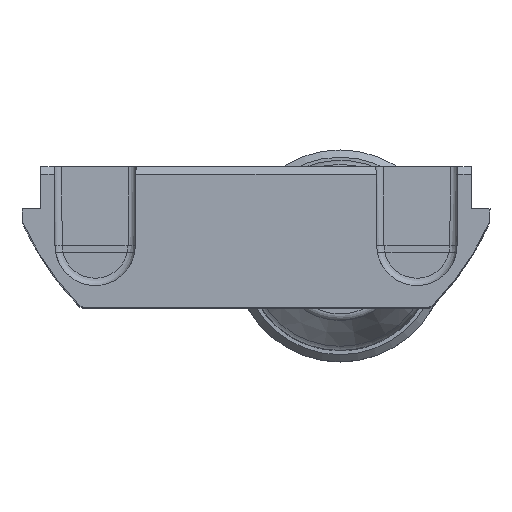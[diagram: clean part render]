
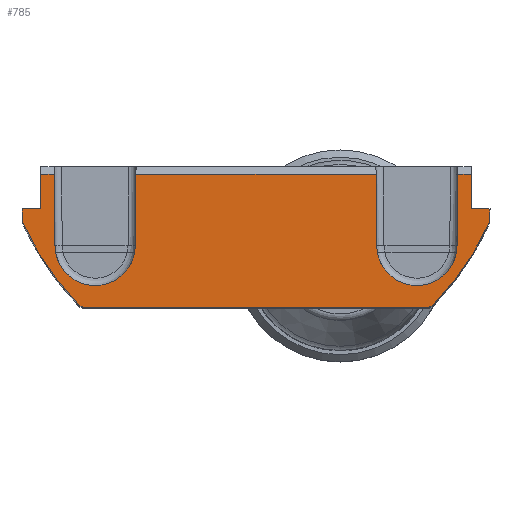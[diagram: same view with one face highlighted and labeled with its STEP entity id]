
A CAD part, top view. The second image highlights one B-rep face of the part: STEP entity #785.
In plain terms, the highlighted planar face has unit normal (0, 0, 1).
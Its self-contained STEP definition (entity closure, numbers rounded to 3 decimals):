
#785=ADVANCED_FACE('',(#1449),#1153,.T.);
#1153=PLANE('',#7957);
#1449=FACE_OUTER_BOUND('',#1852,.T.);
#1852=EDGE_LOOP('',(#3552,#3553,#3554,#3555,#3556,#3557,#3558,#3559,#3560,
#3561,#3562,#3563,#3564,#3565,#3566,#3567,#3568,#3569,#3570,#3571,#3572,
#3573));
#2208=CIRCLE('',#7746,0.5);
#2209=CIRCLE('',#7750,0.5);
#2210=CIRCLE('',#7754,0.5);
#2211=CIRCLE('',#7756,0.5);
#2212=CIRCLE('',#7778,2.75);
#2213=CIRCLE('',#7781,2.75);
#2258=CIRCLE('',#7950,20.);
#2259=CIRCLE('',#7954,20.);
#3552=ORIENTED_EDGE('',*,*,#5959,.F.);
#3553=ORIENTED_EDGE('',*,*,#5551,.T.);
#3554=ORIENTED_EDGE('',*,*,#5675,.F.);
#3555=ORIENTED_EDGE('',*,*,#5681,.F.);
#3556=ORIENTED_EDGE('',*,*,#5679,.F.);
#3557=ORIENTED_EDGE('',*,*,#5547,.T.);
#3558=ORIENTED_EDGE('',*,*,#5689,.T.);
#3559=ORIENTED_EDGE('',*,*,#5686,.T.);
#3560=ORIENTED_EDGE('',*,*,#5683,.T.);
#3561=ORIENTED_EDGE('',*,*,#5543,.T.);
#3562=ORIENTED_EDGE('',*,*,#5960,.F.);
#3563=ORIENTED_EDGE('',*,*,#5961,.F.);
#3564=ORIENTED_EDGE('',*,*,#5668,.F.);
#3565=ORIENTED_EDGE('',*,*,#5613,.T.);
#3566=ORIENTED_EDGE('',*,*,#5953,.T.);
#3567=ORIENTED_EDGE('',*,*,#5620,.T.);
#3568=ORIENTED_EDGE('',*,*,#5958,.F.);
#3569=ORIENTED_EDGE('',*,*,#5626,.T.);
#3570=ORIENTED_EDGE('',*,*,#5956,.T.);
#3571=ORIENTED_EDGE('',*,*,#5627,.T.);
#3572=ORIENTED_EDGE('',*,*,#5670,.F.);
#3573=ORIENTED_EDGE('',*,*,#5962,.F.);
#4798=VERTEX_POINT('',#11055);
#4800=VERTEX_POINT('',#11059);
#4802=VERTEX_POINT('',#11064);
#4804=VERTEX_POINT('',#11068);
#4806=VERTEX_POINT('',#11073);
#4808=VERTEX_POINT('',#11077);
#4849=VERTEX_POINT('',#11505);
#4850=VERTEX_POINT('',#11507);
#4853=VERTEX_POINT('',#11517);
#4854=VERTEX_POINT('',#11519);
#4857=VERTEX_POINT('',#11529);
#4858=VERTEX_POINT('',#11531);
#4859=VERTEX_POINT('',#11535);
#4860=VERTEX_POINT('',#11536);
#4896=VERTEX_POINT('',#11776);
#4897=VERTEX_POINT('',#11780);
#4899=VERTEX_POINT('',#11789);
#4900=VERTEX_POINT('',#11795);
#4901=VERTEX_POINT('',#11802);
#4902=VERTEX_POINT('',#11806);
#5056=VERTEX_POINT('',#12414);
#5057=VERTEX_POINT('',#12416);
#5543=EDGE_CURVE('',#4798,#4800,#6574,.T.);
#5547=EDGE_CURVE('',#4802,#4804,#6578,.T.);
#5551=EDGE_CURVE('',#4806,#4808,#6582,.T.);
#5613=EDGE_CURVE('',#4850,#4849,#2208,.T.);
#5620=EDGE_CURVE('',#4853,#4854,#2209,.T.);
#5626=EDGE_CURVE('',#4857,#4858,#2210,.T.);
#5627=EDGE_CURVE('',#4859,#4860,#2211,.T.);
#5668=EDGE_CURVE('',#4850,#4896,#6624,.T.);
#5670=EDGE_CURVE('',#4897,#4860,#6626,.T.);
#5675=EDGE_CURVE('',#4899,#4808,#6631,.T.);
#5679=EDGE_CURVE('',#4802,#4900,#6635,.T.);
#5681=EDGE_CURVE('',#4900,#4899,#2212,.T.);
#5683=EDGE_CURVE('',#4901,#4798,#6638,.T.);
#5686=EDGE_CURVE('',#4902,#4901,#2213,.T.);
#5689=EDGE_CURVE('',#4804,#4902,#6643,.T.);
#5953=EDGE_CURVE('',#4849,#4853,#2258,.T.);
#5956=EDGE_CURVE('',#4858,#4859,#2259,.T.);
#5958=EDGE_CURVE('',#4857,#4854,#6827,.T.);
#5959=EDGE_CURVE('',#4806,#5056,#6828,.T.);
#5960=EDGE_CURVE('',#5057,#4800,#6829,.T.);
#5961=EDGE_CURVE('',#4896,#5057,#6830,.T.);
#5962=EDGE_CURVE('',#5056,#4897,#6831,.T.);
#6574=LINE('',#11060,#7164);
#6578=LINE('',#11069,#7168);
#6582=LINE('',#11078,#7172);
#6624=LINE('',#11775,#7214);
#6626=LINE('',#11779,#7216);
#6631=LINE('',#11788,#7221);
#6635=LINE('',#11794,#7225);
#6638=LINE('',#11801,#7228);
#6643=LINE('',#11812,#7233);
#6827=LINE('',#12411,#7417);
#6828=LINE('',#12413,#7418);
#6829=LINE('',#12415,#7419);
#6830=LINE('',#12417,#7420);
#6831=LINE('',#12418,#7421);
#7164=VECTOR('',#8764,1.);
#7168=VECTOR('',#8770,1.);
#7172=VECTOR('',#8776,1.);
#7214=VECTOR('',#8970,1.);
#7216=VECTOR('',#8974,1.);
#7221=VECTOR('',#8983,1.);
#7225=VECTOR('',#8989,1.);
#7228=VECTOR('',#8998,1.);
#7233=VECTOR('',#9011,1.);
#7417=VECTOR('',#9539,1.);
#7418=VECTOR('',#9542,1.);
#7419=VECTOR('',#9543,1.);
#7420=VECTOR('',#9544,1.);
#7421=VECTOR('',#9545,1.);
#7746=AXIS2_PLACEMENT_3D('',#11506,#8880,#8881);
#7750=AXIS2_PLACEMENT_3D('',#11520,#8893,#8894);
#7754=AXIS2_PLACEMENT_3D('',#11532,#8905,#8906);
#7756=AXIS2_PLACEMENT_3D('',#11534,#8909,#8910);
#7778=AXIS2_PLACEMENT_3D('',#11798,#8993,#8994);
#7781=AXIS2_PLACEMENT_3D('',#11807,#9003,#9004);
#7950=AXIS2_PLACEMENT_3D('',#12404,#9526,#9527);
#7954=AXIS2_PLACEMENT_3D('',#12408,#9534,#9535);
#7957=AXIS2_PLACEMENT_3D('',#12419,#9546,#9547);
#8764=DIRECTION('',(-1.,0.,0.));
#8770=DIRECTION('',(-1.,0.,0.));
#8776=DIRECTION('',(-1.,0.,0.));
#8880=DIRECTION('',(0.,0.,1.));
#8881=DIRECTION('',(1.,0.,0.));
#8893=DIRECTION('',(0.,0.,1.));
#8894=DIRECTION('',(1.,0.,0.));
#8905=DIRECTION('',(0.,0.,1.));
#8906=DIRECTION('',(1.,0.,0.));
#8909=DIRECTION('',(0.,0.,1.));
#8910=DIRECTION('',(1.,0.,0.));
#8970=DIRECTION('',(-0.009,1.,0.));
#8974=DIRECTION('',(-0.009,-1.,0.));
#8983=DIRECTION('',(0.009,1.,0.));
#8989=DIRECTION('',(0.009,-1.,0.));
#8993=DIRECTION('',(0.,0.,1.));
#8994=DIRECTION('',(1.,0.,0.));
#8998=DIRECTION('',(-0.009,1.,0.));
#9003=DIRECTION('',(0.,0.,-1.));
#9004=DIRECTION('',(1.,0.,0.));
#9011=DIRECTION('',(-0.009,-1.,0.));
#9526=DIRECTION('',(0.,0.,1.));
#9527=DIRECTION('',(-1.,0.,0.));
#9534=DIRECTION('',(0.,0.,1.));
#9535=DIRECTION('',(1.,0.,0.));
#9539=DIRECTION('',(-1.,0.,0.));
#9542=DIRECTION('',(0.009,-1.,0.));
#9543=DIRECTION('',(0.009,1.,0.));
#9544=DIRECTION('',(1.,0.,0.));
#9545=DIRECTION('',(1.,0.,0.));
#9546=DIRECTION('',(0.,0.,1.));
#9547=DIRECTION('',(1.,0.,0.));
#11055=CARTESIAN_POINT('',(-13.793,9.125,-3.625));
#11059=CARTESIAN_POINT('',(-14.729,9.125,-3.625));
#11060=CARTESIAN_POINT('',(-2.263,9.125,-3.625));
#11064=CARTESIAN_POINT('',(8.207,9.125,-3.625));
#11068=CARTESIAN_POINT('',(-8.207,9.125,-3.625));
#11069=CARTESIAN_POINT('',(-2.263,9.125,-3.625));
#11073=CARTESIAN_POINT('',(14.729,9.125,-3.625));
#11077=CARTESIAN_POINT('',(13.793,9.125,-3.625));
#11078=CARTESIAN_POINT('',(-2.263,9.125,-3.625));
#11505=CARTESIAN_POINT('',(-15.949,5.805,-3.625));
#11506=CARTESIAN_POINT('',(-15.494,6.011,-3.625));
#11507=CARTESIAN_POINT('',(-15.994,6.007,-3.625));
#11517=CARTESIAN_POINT('',(-12.124,0.178,-3.625));
#11519=CARTESIAN_POINT('',(-11.764,0.025,-3.625));
#11520=CARTESIAN_POINT('',(-11.764,0.525,-3.625));
#11529=CARTESIAN_POINT('',(11.764,0.025,-3.625));
#11531=CARTESIAN_POINT('',(12.124,0.178,-3.625));
#11532=CARTESIAN_POINT('',(11.764,0.525,-3.625));
#11534=CARTESIAN_POINT('',(15.494,6.011,-3.625));
#11535=CARTESIAN_POINT('',(15.949,5.805,-3.625));
#11536=CARTESIAN_POINT('',(15.994,6.007,-3.625));
#11775=CARTESIAN_POINT('',(-16.063,13.951,-3.625));
#11776=CARTESIAN_POINT('',(-16.,6.75,-3.625));
#11779=CARTESIAN_POINT('',(16.062,13.911,-3.625));
#11780=CARTESIAN_POINT('',(16.,6.75,-3.625));
#11788=CARTESIAN_POINT('',(13.75,4.25,-3.625));
#11789=CARTESIAN_POINT('',(13.75,4.25,-3.625));
#11794=CARTESIAN_POINT('',(8.25,4.25,-3.625));
#11795=CARTESIAN_POINT('',(8.25,4.25,-3.625));
#11798=CARTESIAN_POINT('',(11.,4.25,-3.625));
#11801=CARTESIAN_POINT('',(-13.75,4.25,-3.625));
#11802=CARTESIAN_POINT('',(-13.75,4.25,-3.625));
#11806=CARTESIAN_POINT('',(-8.25,4.25,-3.625));
#11807=CARTESIAN_POINT('',(-11.,4.25,-3.625));
#11812=CARTESIAN_POINT('',(-8.25,4.25,-3.625));
#12404=CARTESIAN_POINT('',(2.263,14.071,-3.625));
#12408=CARTESIAN_POINT('',(-2.263,14.071,-3.625));
#12411=CARTESIAN_POINT('',(-11.95,0.025,-3.625));
#12413=CARTESIAN_POINT('',(14.685,14.219,-3.625));
#12414=CARTESIAN_POINT('',(14.75,6.75,-3.625));
#12415=CARTESIAN_POINT('',(-14.685,14.18,-3.625));
#12416=CARTESIAN_POINT('',(-14.75,6.75,-3.625));
#12417=CARTESIAN_POINT('',(-2.263,6.75,-3.625));
#12418=CARTESIAN_POINT('',(-2.263,6.75,-3.625));
#12419=CARTESIAN_POINT('',(-2.263,14.071,-3.625));
